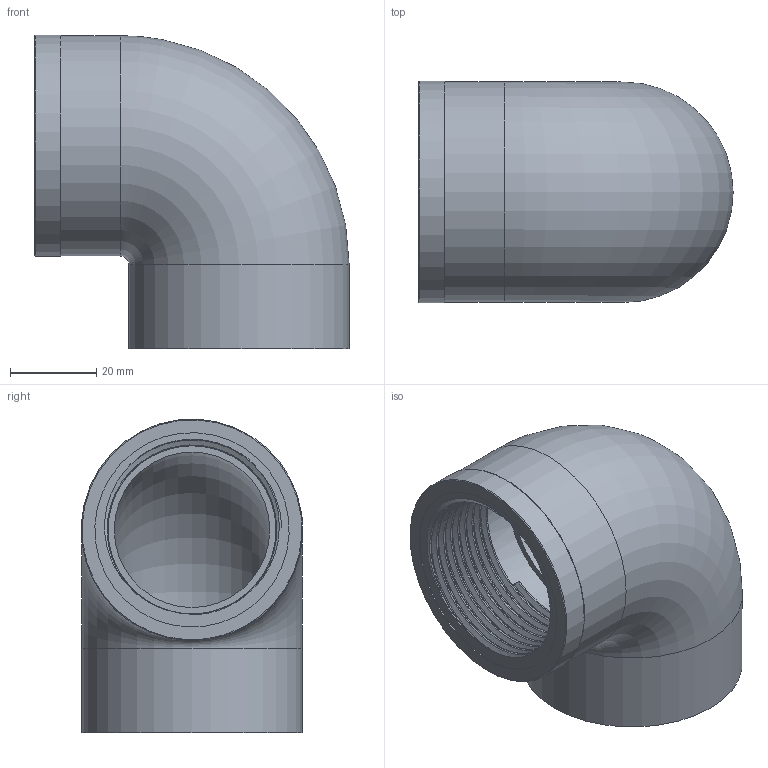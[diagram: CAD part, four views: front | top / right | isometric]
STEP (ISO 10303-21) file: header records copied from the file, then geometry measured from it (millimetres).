
FILE_DESCRIPTION(/* description */ (''),/* implementation_level */ '2;1');
FILE_NAME(/* name */ 'C:\Users\POLYPIPE\Desktop\DATASET INVENTOR\LIBRERIA EFFAST\RACCORDI 3DxWEB\RGR\3D_RGRGOR\3D_RGRGOR040E.stp',/* time_stamp */ '2018-01-19T17:46:54+01:00',/* author */ ('POLYPIPE'),/* organization */ (''),/* preprocessor_version */ 'ST-DEVELOPER v16.1',/* originating_system */ 'Autodesk Inventor 2016',/* authorisation */ '');
FILE_SCHEMA (('CONFIG_CONTROL_DESIGN'));
Length unit declared in the file: centimetre
Products named in the file (1): 3D_RGRGOR040E
Bounding box: 72.75 x 51.24 x 72.62 mm (x, y, z)
Volume: 69084.3 mm3; surface area: 27308.2 mm2
Topology: 1 solids, 1 shells, 21 faces, 41 edges, 26 vertices
Faces by surface type: plane 7, cylinder 6, bspline 5, torus 3
Full cylindrical faces by diameter (mm): 38.952 x1, 40 x1, 45 x1, 51 x2, 51.3 x1
Entity records: 3838 total; most frequent: CARTESIAN_POINT 3404, DIRECTION 71, ORIENTED_EDGE 62, EDGE_LOOP 36, AXIS2_PLACEMENT_3D 34, EDGE_CURVE 31, VERTEX_POINT 25, STYLED_ITEM 22
